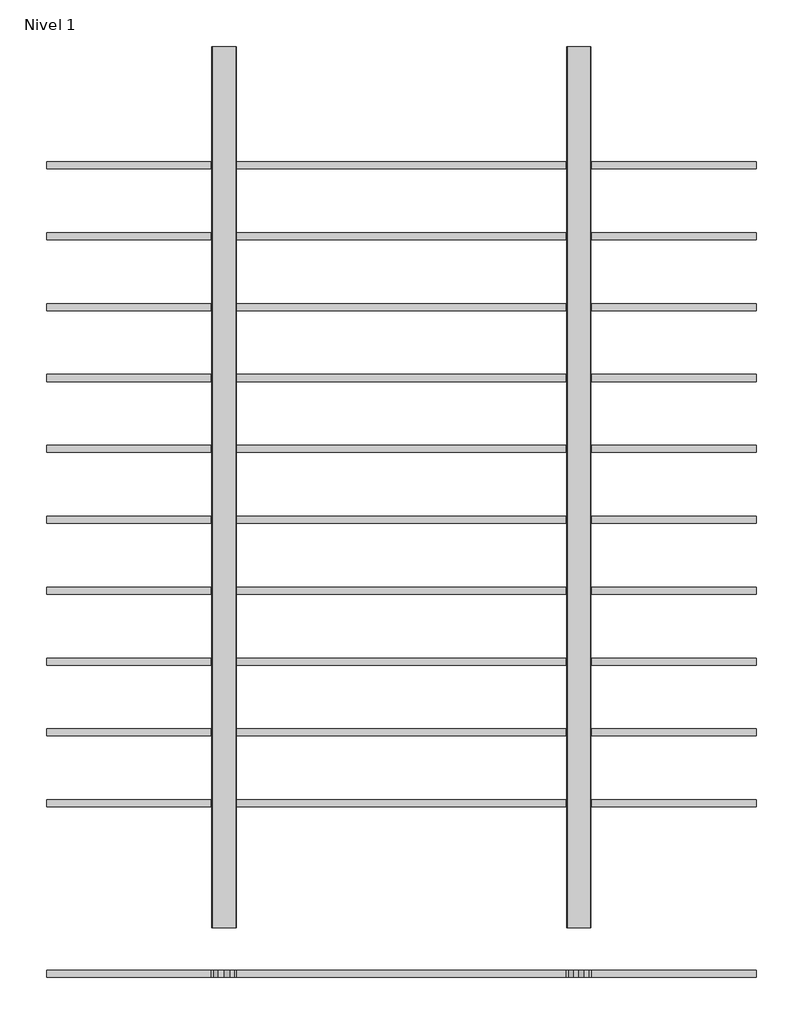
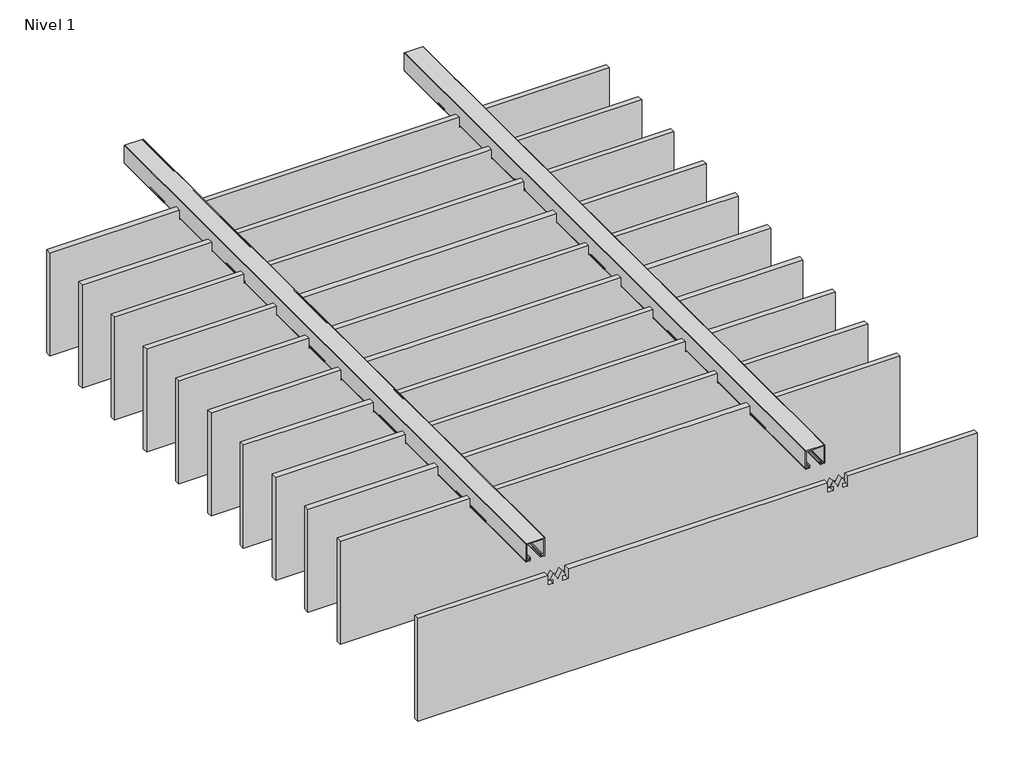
# One storey: 13 proxies.
"""IFC4 building model written with IfcOpenShell, lengths in millimetres."""

from ifc_helpers import new_model, si_unit, origin, place, context, project, spatial, transform, mapped, element, save
from components import generic_models_06a3d784, generic_models_5dd93ef4, generic_models_45efb97e, generic_models_4686592c, generic_models_0a0765c0, generic_models_d730558e, generic_models_789b4434, generic_models_79872261, generic_models_269625cc, generic_models_d2bc4034, generic_models_b5e7d527, generic_models_5601667a, generic_models_68fe945b

model = new_model("IFC4")

# Units and contexts
model_context = context("Model", 3, world=origin())
ifc_project = project(units=[si_unit("LENGTHUNIT", "METRE", prefix="MILLI")], contexts=[model_context])

# Site, building, storey
site = spatial("IfcSite", under=ifc_project)
building = spatial("IfcBuilding", under=site)
storey = spatial("IfcBuildingStorey", under=building, Name="Nivel 1", Elevation=0.0)

# Proxies
placement = place(None, origin())
generic_models_shape = generic_models_06a3d784(model_context)
element("IfcBuildingElementProxy", 1, Name="instalación_stratus 1.3dm", ObjectType="instalación_stratus 1.3dm", at=placement, inside=storey, context=model_context, shape_type="MappedRepresentation", body=[
    mapped(generic_models_shape, transform((0.0, 0.0, 0.0), x_axis=(1.0, 0.0, 0.0), y_axis=(0.0, 1.0, 0.0), z_axis=(0.0, 0.0, 1.0))),
])
generic_models_2_shape = generic_models_5dd93ef4(model_context)
element("IfcBuildingElementProxy", 2, Name="instalación_stratus 2.3dm", ObjectType="instalación_stratus 2.3dm", at=placement, inside=storey, context=model_context, shape_type="MappedRepresentation", body=[
    mapped(generic_models_2_shape, transform((0.0, 0.0, 0.0), x_axis=(1.0, 0.0, 0.0), y_axis=(0.0, 1.0, 0.0), z_axis=(0.0, 0.0, 1.0))),
])
generic_models_3_shape = generic_models_45efb97e(model_context)
element("IfcBuildingElementProxy", 3, Name="instalación_stratus 3.3dm", ObjectType="instalación_stratus 3.3dm", at=placement, inside=storey, context=model_context, shape_type="MappedRepresentation", body=[
    mapped(generic_models_3_shape, transform((0.0, 0.0, 0.0), x_axis=(1.0, 0.0, 0.0), y_axis=(0.0, 1.0, 0.0), z_axis=(0.0, 0.0, 1.0))),
])
generic_models_4_shape = generic_models_4686592c(model_context)
element("IfcBuildingElementProxy", 4, Name="instalación_stratus 4.3dm", ObjectType="instalación_stratus 4.3dm", at=placement, inside=storey, context=model_context, shape_type="MappedRepresentation", body=[
    mapped(generic_models_4_shape, transform((0.0, 0.0, 0.0), x_axis=(1.0, 0.0, 0.0), y_axis=(0.0, 1.0, 0.0), z_axis=(0.0, 0.0, 1.0))),
])
generic_models_5_shape = generic_models_0a0765c0(model_context)
element("IfcBuildingElementProxy", 5, Name="instalación_stratus 5.3dm", ObjectType="instalación_stratus 5.3dm", at=placement, inside=storey, context=model_context, shape_type="MappedRepresentation", body=[
    mapped(generic_models_5_shape, transform((0.0, 0.0, 0.0), x_axis=(1.0, 0.0, 0.0), y_axis=(0.0, 1.0, 0.0), z_axis=(0.0, 0.0, 1.0))),
])
generic_models_6_shape = generic_models_d730558e(model_context)
element("IfcBuildingElementProxy", 6, Name="instalación_stratus 6.3dm", ObjectType="instalación_stratus 6.3dm", at=placement, inside=storey, context=model_context, shape_type="MappedRepresentation", body=[
    mapped(generic_models_6_shape, transform((0.0, 0.0, 0.0), x_axis=(1.0, 0.0, 0.0), y_axis=(0.0, 1.0, 0.0), z_axis=(0.0, 0.0, 1.0))),
])
generic_models_7_shape = generic_models_789b4434(model_context)
element("IfcBuildingElementProxy", 7, Name="instalación_stratus 7.3dm", ObjectType="instalación_stratus 7.3dm", at=placement, inside=storey, context=model_context, shape_type="MappedRepresentation", body=[
    mapped(generic_models_7_shape, transform((0.0, 0.0, 0.0), x_axis=(1.0, 0.0, 0.0), y_axis=(0.0, 1.0, 0.0), z_axis=(0.0, 0.0, 1.0))),
])
generic_models_8_shape = generic_models_79872261(model_context)
element("IfcBuildingElementProxy", 8, Name="instalación_stratus 8.3dm", ObjectType="instalación_stratus 8.3dm", at=placement, inside=storey, context=model_context, shape_type="MappedRepresentation", body=[
    mapped(generic_models_8_shape, transform((0.0, 0.0, 0.0), x_axis=(1.0, 0.0, 0.0), y_axis=(0.0, 1.0, 0.0), z_axis=(0.0, 0.0, 1.0))),
])
generic_models_9_shape = generic_models_269625cc(model_context)
element("IfcBuildingElementProxy", 9, Name="instalación_stratus 9.3dm", ObjectType="instalación_stratus 9.3dm", at=placement, inside=storey, context=model_context, shape_type="MappedRepresentation", body=[
    mapped(generic_models_9_shape, transform((0.0, 0.0, 0.0), x_axis=(1.0, 0.0, 0.0), y_axis=(0.0, 1.0, 0.0), z_axis=(0.0, 0.0, 1.0))),
])
generic_models_10_shape = generic_models_d2bc4034(model_context)
element("IfcBuildingElementProxy", 10, Name="instalación_stratus 10.3dm", ObjectType="instalación_stratus 10.3dm", at=placement, inside=storey, context=model_context, shape_type="MappedRepresentation", body=[
    mapped(generic_models_10_shape, transform((0.0, 0.0, 0.0), x_axis=(1.0, 0.0, 0.0), y_axis=(0.0, 1.0, 0.0), z_axis=(0.0, 0.0, 1.0))),
])
generic_models_11_shape = generic_models_b5e7d527(model_context)
element("IfcBuildingElementProxy", 11, Name="instalación_stratus 11.3dm", ObjectType="instalación_stratus 11.3dm", at=placement, inside=storey, context=model_context, shape_type="MappedRepresentation", body=[
    mapped(generic_models_11_shape, transform((0.0, 0.0, 0.0), x_axis=(1.0, 0.0, 0.0), y_axis=(0.0, 1.0, 0.0), z_axis=(0.0, 0.0, 1.0))),
])
generic_models_12_shape = generic_models_5601667a(model_context)
element("IfcBuildingElementProxy", 12, Name="instalación_stratus 12.3dm", ObjectType="instalación_stratus 12.3dm", at=placement, inside=storey, context=model_context, shape_type="MappedRepresentation", body=[
    mapped(generic_models_12_shape, transform((0.0, 0.0, 0.0), x_axis=(1.0, 0.0, 0.0), y_axis=(0.0, 1.0, 0.0), z_axis=(0.0, 0.0, 1.0))),
])
generic_models_13_shape = generic_models_68fe945b(model_context)
element("IfcBuildingElementProxy", 13, Name="instalación_stratus 13.3dm", ObjectType="instalación_stratus 13.3dm", at=placement, inside=storey, context=model_context, shape_type="MappedRepresentation", body=[
    mapped(generic_models_13_shape, transform((0.0, 0.0, 0.0), x_axis=(1.0, 0.0, 0.0), y_axis=(0.0, 1.0, 0.0), z_axis=(0.0, 0.0, 1.0))),
])

save(model, "model.ifc")
